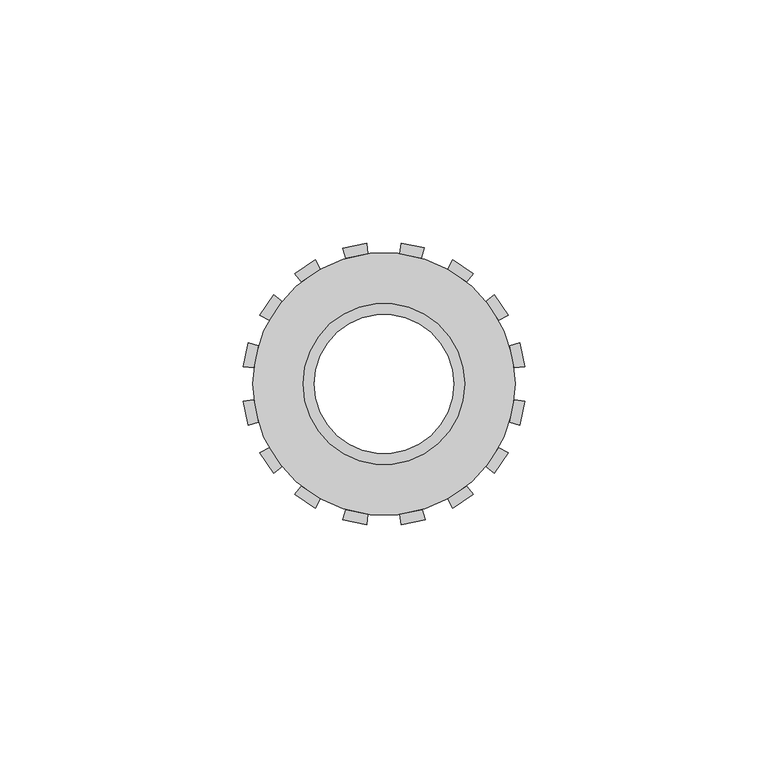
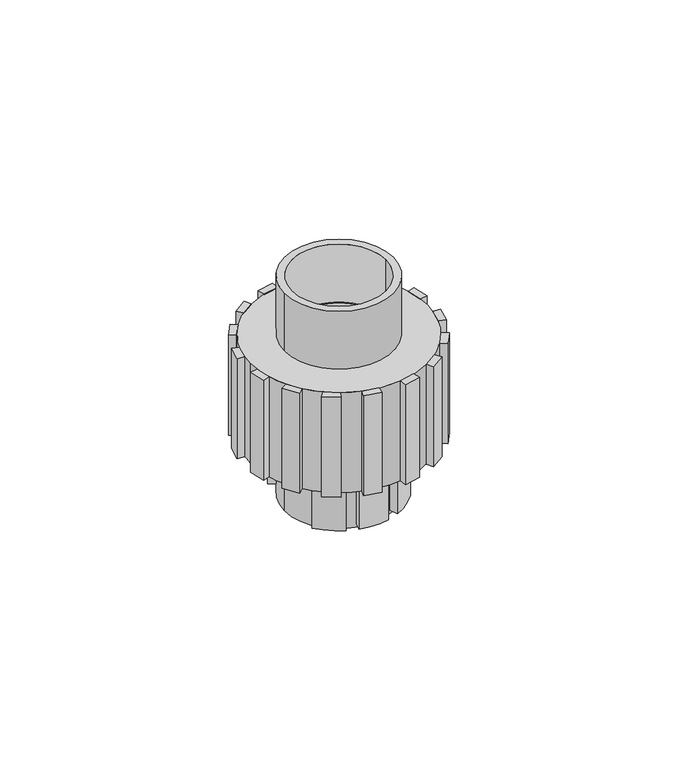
"""IFC4 building model written with IfcOpenShell, lengths in millimetres: valve geometry, Tuerca Union_Lubrizol_CPVC_FlowGuard_MX 25mm : Tuerca Union_Lubrizol_CPVC_FlowGuard_MX 25mm."""

import ifcopenshell
import ifcopenshell.guid

model = None  # the IFC model being written
_history = None  # IfcOwnerHistory: only IFC2X3 demands one
_inside = {}  # id of a spatial element -> (the spatial element, [elements in it])
_under = {}  # id of a project, library or spatial element -> (it, [spatial elements below it])
_declared = {}  # id of a project -> (the project, [libraries it declares])
_typed = {}  # id of a type object -> (the type object, [elements of that type])
_made_of = {}  # id of a material, layer set ... -> (it, [elements and type objects made of it])


def new_model(schema):
    """Start an empty IFC model of exactly this schema.

    Asked for "IFC4X3", IfcOpenShell would pick the latest addendum, in which some entities
    have other attributes; the version numbers below select the first issue.
    IFC2X3 requires an IfcOwnerHistory on every rooted entity: one is made here for all.
    """
    global model, _history
    if schema == "IFC4X3":
        model = ifcopenshell.file(schema_version=(4, 3, 0, 0))
    else:
        model = ifcopenshell.file(schema=schema)
    _inside.clear()
    _under.clear()
    _declared.clear()
    _typed.clear()
    _made_of.clear()
    _history = None
    if model.schema == "IFC2X3":
        org = make("IfcOrganization", Name="unknown")
        user = make(
            "IfcPersonAndOrganization",
            ThePerson=make("IfcPerson", FamilyName="unknown"),
            TheOrganization=org,
        )
        app = make(
            "IfcApplication",
            ApplicationDeveloper=org,
            Version="unknown",
            ApplicationFullName="unknown",
            ApplicationIdentifier="unknown",
        )
        _history = make(
            "IfcOwnerHistory",
            OwningUser=user,
            OwningApplication=app,
            ChangeAction="ADDED",
            CreationDate=0,
        )
    return model


def make(cls, **values):
    """One entity of the class cls with the attributes given. An attribute that is None is left unset."""
    return model.create_entity(
        cls, **{name: value for name, value in values.items() if value is not None}
    )


def rooted(cls, **values):
    """An entity with a GlobalId (a new one), such as an element, a storey or a relation."""
    return make(cls, GlobalId=ifcopenshell.guid.new(), OwnerHistory=_history, **values)


def si_unit(unit_type, name, prefix=None):
    """IfcSIUnit, for example si_unit("LENGTHUNIT", "METRE", prefix="MILLI")."""
    return make("IfcSIUnit", UnitType=unit_type, Prefix=prefix, Name=name)


def assignment(units):
    """IfcUnitAssignment: the units of a project."""
    return None if units is None else make("IfcUnitAssignment", Units=units)


def point(xyz):
    """IfcCartesianPoint."""
    return None if xyz is None else make("IfcCartesianPoint", Coordinates=xyz)


def direction(xyz):
    """IfcDirection."""
    return None if xyz is None else make("IfcDirection", DirectionRatios=xyz)


def frame(location, z_axis=None, x_axis=None):
    """IfcAxis2Placement3D, a coordinate frame: its origin and axes. An axis left out is left unset."""
    return make(
        "IfcAxis2Placement3D",
        Location=point(location),
        Axis=direction(z_axis),
        RefDirection=direction(x_axis),
    )


def frame_2d(location, x_axis=None):
    """IfcAxis2Placement2D, a coordinate frame in the plane: its origin and x axis."""
    return make(
        "IfcAxis2Placement2D", Location=point(location), RefDirection=direction(x_axis)
    )


def origin():
    """The frame at (0, 0, 0) with its axes left unset."""
    return frame((0.0, 0.0, 0.0))


def origin_with_axes():
    """The frame at (0, 0, 0) with the z axis (0, 0, 1) and the x axis (1, 0, 0) written out."""
    return frame((0.0, 0.0, 0.0), z_axis=(0.0, 0.0, 1.0), x_axis=(1.0, 0.0, 0.0))


def origin_2d():
    """The frame at (0, 0) in the plane with its x axis left unset."""
    return frame_2d((0.0, 0.0))


def place(relative_to, where):
    """IfcLocalPlacement: puts the frame where relative to a parent placement (None: the world)."""
    return make(
        "IfcLocalPlacement", PlacementRelTo=relative_to, RelativePlacement=where
    )


def context(
    kind, dimensions, precision=None, world=None, true_north=None, identifier=None
):
    """IfcGeometricRepresentationContext, for example the 3D "Model" context."""
    return make(
        "IfcGeometricRepresentationContext",
        ContextIdentifier=identifier,
        ContextType=kind,
        CoordinateSpaceDimension=dimensions,
        Precision=precision,
        WorldCoordinateSystem=world,
        TrueNorth=true_north,
    )


def project(units=None, contexts=None):
    """IfcProject with its units and contexts."""
    return rooted(
        "IfcProject",
        Name="project",
        RepresentationContexts=contexts,
        UnitsInContext=assignment(units),
    )


def spatial(cls, under=None, at=None, **own):
    """A site, building, storey or space (cls), placed at a placement, below another one or the project."""
    s = rooted(cls, ObjectPlacement=at, **own)
    if under is not None:
        _under.setdefault(under.id(), (under, []))[1].append(s)
    return s


def polyline(points):
    """IfcPolyline through the points."""
    return make("IfcPolyline", Points=[point(p) for p in points])


def circle_curve(where, radius):
    """IfcCircle in the frame where."""
    return make("IfcCircle", Position=where, Radius=radius)


def trimmed(basis, trim1, trim2, sense, master):
    """IfcTrimmedCurve: the piece of a basis curve between two trims."""
    return make(
        "IfcTrimmedCurve",
        BasisCurve=basis,
        Trim1=trim1,
        Trim2=trim2,
        SenseAgreement=sense,
        MasterRepresentation=master,
    )


def segment(curve, same_sense, transition):
    """IfcCompositeCurveSegment."""
    return make(
        "IfcCompositeCurveSegment",
        Transition=transition,
        SameSense=same_sense,
        ParentCurve=curve,
    )


def composite_curve(segments, self_intersect=None):
    """IfcCompositeCurve: segments joined end to end."""
    return make("IfcCompositeCurve", Segments=segments, SelfIntersect=self_intersect)


def outline(outer, holes=None, kind="AREA"):
    """IfcArbitraryClosedProfileDef: a profile drawn as a closed curve; with holes, ...WithVoids."""
    if holes is None:
        return make("IfcArbitraryClosedProfileDef", ProfileType=kind, OuterCurve=outer)
    return make(
        "IfcArbitraryProfileDefWithVoids",
        ProfileType=kind,
        OuterCurve=outer,
        InnerCurves=holes,
    )


def extrude(swept, where, along, depth):
    """IfcExtrudedAreaSolid: the profile swept, set in the frame where, extruded along a direction by depth."""
    return make(
        "IfcExtrudedAreaSolid",
        SweptArea=swept,
        Position=where,
        ExtrudedDirection=direction(along),
        Depth=depth,
    )


def shape(context_of_items, identifier, shape_type, items):
    """IfcShapeRepresentation: the items that make up one representation, for example the "Body"."""
    return make(
        "IfcShapeRepresentation",
        ContextOfItems=context_of_items,
        RepresentationIdentifier=identifier,
        RepresentationType=shape_type,
        Items=items,
    )


def source(mapping_origin, context_of_items, identifier, shape_type, items):
    """IfcRepresentationMap: a shape defined once, which mapped items show again and again."""
    return make(
        "IfcRepresentationMap",
        MappingOrigin=mapping_origin,
        MappedRepresentation=shape(context_of_items, identifier, shape_type, items),
    )


def transform(
    local_origin,
    x_axis=None,
    y_axis=None,
    z_axis=None,
    scale=None,
    scale2=None,
    scale3=None,
    uniform=True,
):
    """IfcCartesianTransformationOperator3D, or its non-uniform kind. x_axis, y_axis, z_axis: its Axis1, 2, 3."""
    if uniform:
        return make(
            "IfcCartesianTransformationOperator3D",
            Axis1=direction(x_axis),
            Axis2=direction(y_axis),
            LocalOrigin=point(local_origin),
            Scale=scale,
            Axis3=direction(z_axis),
        )
    return make(
        "IfcCartesianTransformationOperator3DnonUniform",
        Axis1=direction(x_axis),
        Axis2=direction(y_axis),
        LocalOrigin=point(local_origin),
        Scale=scale,
        Axis3=direction(z_axis),
        Scale2=scale2,
        Scale3=scale3,
    )


def mapped(mapping_source, mapping_target):
    """IfcMappedItem: shows the shape of a source again, moved by a transform."""
    return make(
        "IfcMappedItem", MappingSource=mapping_source, MappingTarget=mapping_target
    )


def made_of(thing, what):
    """Note that an element or type object is made of a material, layer set ...; save() writes the relation."""
    if what is not None:
        _made_of.setdefault(what.id(), (what, []))[1].append(thing)
    return thing


def element(
    cls,
    number,
    at=None,
    inside=None,
    cuts=None,
    type_object=None,
    material=None,
    context=None,
    identifier="Body",
    shape_type=None,
    held_by="IfcProductDefinitionShape",
    body=None,
    shapes=None,
    **own,
):
    """One element of the class cls, such as IfcWall. Its Tag is "e" and its number.

    at: its placement. inside: the storey or other place that contains it. cuts: it is an
    opening in that element (IfcRelVoidsElement). A single representation is given by context,
    identifier, shape_type and body (its items); several are given by shapes. held_by: the class
    of the entity that holds the representations. save() writes the other relations.
    """
    e = rooted(cls, Tag="e%d" % number, ObjectPlacement=at, **own)
    if body is not None:
        shapes = [shape(context, identifier, shape_type, body)]
    if shapes is not None:
        e.Representation = make(held_by, Representations=shapes)
    if inside is not None:
        _inside.setdefault(inside.id(), (inside, []))[1].append(e)
    if cuts is not None:
        rooted(
            "IfcRelVoidsElement", RelatingBuildingElement=cuts, RelatedOpeningElement=e
        )
    if type_object is not None:
        _typed.setdefault(type_object.id(), (type_object, []))[1].append(e)
    return made_of(e, material)


def aggregate(whole, parts):
    """IfcRelAggregates: a whole, such as a stair, and the parts it consists of."""
    return rooted("IfcRelAggregates", RelatingObject=whole, RelatedObjects=parts)


def save(model, path):
    """Write the relations noted so far, then the file.

    IfcRelAggregates (storeys below a building ...), IfcRelContainedInSpatialStructure (elements
    in a storey), IfcRelDefinesByType, IfcRelAssociatesMaterial and IfcRelDeclares: one each for
    every whole, place, type object, material and project.
    """
    for whole, parts in _under.values():
        aggregate(whole, parts)
    for where, things in _inside.values():
        rooted(
            "IfcRelContainedInSpatialStructure",
            RelatedElements=things,
            RelatingStructure=where,
        )
    for kind, things in _typed.values():
        rooted("IfcRelDefinesByType", RelatedObjects=things, RelatingType=kind)
    for what, things in _made_of.values():
        rooted("IfcRelAssociatesMaterial", RelatedObjects=things, RelatingMaterial=what)
    for by, libraries in _declared.values():
        rooted("IfcRelDeclares", RelatingContext=by, RelatedDefinitions=libraries)
    model.write(path)


def valve_40f08054(model_context):
    return source(origin(), model_context, "Body", "SweptSolid", [
        extrude(outline(composite_curve([segment(polyline([(-3.8478317, 16.0761694), (-4.5012184, 18.5146416)]), True, "CONTINUOUS"), segment(trimmed(circle_curve(origin_2d(), 19.0539477), [point((-4.5012184, 18.5146416))], [point((4.5012184, 18.5146416))], False, "CARTESIAN"), True, "CONTINUOUS"), segment(polyline([(4.5012184, 18.5146416), (3.8478317, 16.0761694)]), True, "CONTINUOUS"), segment(trimmed(circle_curve(origin_2d(), 16.530246), [point((3.8478317, 16.0761694))], [point((-3.8478317, 16.0761694))], True, "CARTESIAN"), True, "CONTINUOUS")], self_intersect=False)), frame((0.0, 0.0, 1.0184482), z_axis=(0.0, 0.0, 1.0), x_axis=(1.0, 0.0, 0.0)), (0.0, 0.0, 1.0), 17.9199917),
        extrude(outline(composite_curve([segment(trimmed(circle_curve(origin_2d(), 16.530246), [point((-6.8653454, 15.0371561))], [point((-12.9296109, 10.2992326))], True, "CARTESIAN"), True, "CONTINUOUS"), segment(polyline([(-12.9296109, 10.2992326), (-14.9457601, 11.81851)]), True, "CONTINUOUS"), segment(trimmed(circle_curve(origin_2d(), 19.0539477), [point((-14.9457601, 11.81851))], [point((-7.8517431, 17.3609634))], False, "CARTESIAN"), True, "CONTINUOUS"), segment(polyline([(-7.8517431, 17.3609634), (-6.8653454, 15.0371561)]), True, "CONTINUOUS")], self_intersect=False)), frame((0.0, 0.0, 1.0184482), z_axis=(0.0, 0.0, 1.0), x_axis=(1.0, 0.0, 0.0)), (0.0, 0.0, 1.0), 17.9199917),
        extrude(outline(composite_curve([segment(polyline([(6.8653454, 15.0371561), (7.8517431, 17.3609634)]), True, "CONTINUOUS"), segment(trimmed(circle_curve(origin_2d(), 19.0539477), [point((7.8517431, 17.3609634))], [point((14.9457601, 11.81851))], False, "CARTESIAN"), True, "CONTINUOUS"), segment(polyline([(14.9457601, 11.81851), (12.9296109, 10.2992326)]), True, "CONTINUOUS"), segment(trimmed(circle_curve(origin_2d(), 16.530246), [point((12.9296109, 10.2992326))], [point((6.8653454, 15.0371561))], True, "CARTESIAN"), True, "CONTINUOUS")], self_intersect=False)), frame((0.0, 0.0, 1.0184482), z_axis=(0.0, 0.0, 1.0), x_axis=(1.0, 0.0, 0.0)), (0.0, 0.0, 1.0), 17.9199917),
        extrude(outline(composite_curve([segment(trimmed(circle_curve(origin_2d(), 16.530246), [point((-3.8478317, -16.0761694))], [point((3.8478317, -16.0761694))], True, "CARTESIAN"), True, "CONTINUOUS"), segment(polyline([(3.8478317, -16.0761694), (4.5012184, -18.5146416)]), True, "CONTINUOUS"), segment(trimmed(circle_curve(origin_2d(), 19.0539477), [point((4.5012184, -18.5146416))], [point((-4.5012184, -18.5146416))], False, "CARTESIAN"), True, "CONTINUOUS"), segment(polyline([(-4.5012184, -18.5146416), (-3.8478317, -16.0761694)]), True, "CONTINUOUS")], self_intersect=False)), frame((0.0, 0.0, 1.0184482), z_axis=(0.0, 0.0, 1.0), x_axis=(1.0, 0.0, 0.0)), (0.0, 0.0, 1.0), 17.9199917),
        extrude(outline(composite_curve([segment(polyline([(-6.8653454, -15.0371561), (-7.8517431, -17.3609634)]), True, "CONTINUOUS"), segment(trimmed(circle_curve(origin_2d(), 19.0539477), [point((-7.8517431, -17.3609634))], [point((-14.9457601, -11.81851))], False, "CARTESIAN"), True, "CONTINUOUS"), segment(polyline([(-14.9457601, -11.81851), (-12.9296109, -10.2992326)]), True, "CONTINUOUS"), segment(trimmed(circle_curve(origin_2d(), 16.530246), [point((-12.9296109, -10.2992326))], [point((-6.8653454, -15.0371561))], True, "CARTESIAN"), True, "CONTINUOUS")], self_intersect=False)), frame((0.0, 0.0, 1.0184482), z_axis=(0.0, 0.0, 1.0), x_axis=(1.0, 0.0, 0.0)), (0.0, 0.0, 1.0), 17.9199917),
        extrude(outline(composite_curve([segment(trimmed(circle_curve(origin_2d(), 16.530246), [point((6.8653454, -15.0371561))], [point((12.9296109, -10.2992326))], True, "CARTESIAN"), True, "CONTINUOUS"), segment(polyline([(12.9296109, -10.2992326), (14.9457601, -11.81851)]), True, "CONTINUOUS"), segment(trimmed(circle_curve(origin_2d(), 19.0539477), [point((14.9457601, -11.81851))], [point((7.8517431, -17.3609634))], False, "CARTESIAN"), True, "CONTINUOUS"), segment(polyline([(7.8517431, -17.3609634), (6.8653454, -15.0371561)]), True, "CONTINUOUS")], self_intersect=False)), frame((0.0, 0.0, 1.0184482), z_axis=(0.0, 0.0, 1.0), x_axis=(1.0, 0.0, 0.0)), (0.0, 0.0, 1.0), 17.9199917),
        extrude(outline(composite_curve([segment(polyline([(-16.9916506, 20.982941), (-18.3509826, 22.6615762)]), True, "CONTINUOUS"), segment(trimmed(circle_curve(origin_2d(), 29.16), [point((-18.3509826, 22.6615762))], [point((-14.1370485, 25.5039107))], False, "CARTESIAN"), True, "CONTINUOUS"), segment(polyline([(-14.1370485, 25.5039107), (-13.0898597, 23.6147321)]), True, "CONTINUOUS"), segment(trimmed(circle_curve(origin_2d(), 27.0), [point((-13.0898597, 23.6147321))], [point((-16.9916506, 20.982941))], True, "CARTESIAN"), True, "CONTINUOUS")], self_intersect=False)), frame((0.0, 0.0, 18.9384399), z_axis=(0.0, 0.0, 1.0), x_axis=(1.0, 0.0, 0.0)), (0.0, 0.0, 1.0), 32.2353081),
        extrude(outline(composite_curve([segment(trimmed(circle_curve(origin_2d(), 27.0), [point((-3.2904723, 26.7987461))], [point((-7.894036, 25.8202284))], True, "CARTESIAN"), True, "CONTINUOUS"), segment(polyline([(-7.894036, 25.8202284), (-8.5255589, 27.8858467)]), True, "CONTINUOUS"), segment(trimmed(circle_curve(origin_2d(), 29.16), [point((-8.5255589, 27.8858467))], [point((-3.5537101, 28.9426458))], False, "CARTESIAN"), True, "CONTINUOUS"), segment(polyline([(-3.5537101, 28.9426458), (-3.2904723, 26.7987461)]), True, "CONTINUOUS")], self_intersect=False)), frame((0.0, 0.0, 18.9384399), z_axis=(0.0, 0.0, 1.0), x_axis=(1.0, 0.0, 0.0)), (0.0, 0.0, 1.0), 32.2353081),
        extrude(outline(composite_curve([segment(trimmed(circle_curve(origin_2d(), 27.0), [point((-20.982941, 16.9916506))], [point((-23.6147321, 13.0898597))], True, "CARTESIAN"), True, "CONTINUOUS"), segment(polyline([(-23.6147321, 13.0898597), (-25.5039107, 14.1370485)]), True, "CONTINUOUS"), segment(trimmed(circle_curve(origin_2d(), 29.16), [point((-25.5039107, 14.1370485))], [point((-22.6615762, 18.3509826))], False, "CARTESIAN"), True, "CONTINUOUS"), segment(polyline([(-22.6615762, 18.3509826), (-20.982941, 16.9916506)]), True, "CONTINUOUS")], self_intersect=False)), frame((0.0, 0.0, 18.9384399), z_axis=(0.0, 0.0, 1.0), x_axis=(1.0, 0.0, 0.0)), (0.0, 0.0, 1.0), 32.2353081),
        extrude(outline(composite_curve([segment(polyline([(-26.7987461, 3.2904723), (-28.9426458, 3.5537101)]), True, "CONTINUOUS"), segment(trimmed(circle_curve(origin_2d(), 29.16), [point((-28.9426458, 3.5537101))], [point((-27.8858467, 8.5255589))], False, "CARTESIAN"), True, "CONTINUOUS"), segment(polyline([(-27.8858467, 8.5255589), (-25.8202284, 7.894036)]), True, "CONTINUOUS"), segment(trimmed(circle_curve(origin_2d(), 27.0), [point((-25.8202284, 7.894036))], [point((-26.7987461, 3.2904723))], True, "CARTESIAN"), True, "CONTINUOUS")], self_intersect=False)), frame((0.0, 0.0, 18.9384399), z_axis=(0.0, 0.0, 1.0), x_axis=(1.0, 0.0, 0.0)), (0.0, 0.0, 1.0), 32.2353081),
        extrude(outline(composite_curve([segment(trimmed(circle_curve(origin_2d(), 27.0), [point((16.9916506, 20.982941))], [point((13.0898597, 23.6147321))], True, "CARTESIAN"), True, "CONTINUOUS"), segment(polyline([(13.0898597, 23.6147321), (14.1370485, 25.5039107)]), True, "CONTINUOUS"), segment(trimmed(circle_curve(origin_2d(), 29.16), [point((14.1370485, 25.5039107))], [point((18.3509826, 22.6615762))], False, "CARTESIAN"), True, "CONTINUOUS"), segment(polyline([(18.3509826, 22.6615762), (16.9916506, 20.982941)]), True, "CONTINUOUS")], self_intersect=False)), frame((0.0, 0.0, 18.9384399), z_axis=(0.0, 0.0, 1.0), x_axis=(1.0, 0.0, 0.0)), (0.0, 0.0, 1.0), 32.2353081),
        extrude(outline(composite_curve([segment(polyline([(3.2904723, 26.7987461), (3.5537101, 28.9426458)]), True, "CONTINUOUS"), segment(trimmed(circle_curve(origin_2d(), 29.16), [point((3.5537101, 28.9426458))], [point((8.2585786, 27.9660773))], False, "CARTESIAN"), True, "CONTINUOUS"), segment(polyline([(8.2585786, 27.9660773), (7.6270245, 25.9003571)]), True, "CONTINUOUS"), segment(trimmed(circle_curve(origin_2d(), 27.0), [point((7.6270245, 25.9003571))], [point((3.2904723, 26.7987461))], True, "CARTESIAN"), True, "CONTINUOUS")], self_intersect=False)), frame((0.0, 0.0, 18.9384399), z_axis=(0.0, 0.0, 1.0), x_axis=(1.0, 0.0, 0.0)), (0.0, 0.0, 1.0), 32.2353081),
        extrude(outline(composite_curve([segment(polyline([(20.982941, 16.9916506), (22.6615762, 18.3509826)]), True, "CONTINUOUS"), segment(trimmed(circle_curve(origin_2d(), 29.16), [point((22.6615762, 18.3509826))], [point((25.5039107, 14.1370485))], False, "CARTESIAN"), True, "CONTINUOUS"), segment(polyline([(25.5039107, 14.1370485), (23.6147321, 13.0898597)]), True, "CONTINUOUS"), segment(trimmed(circle_curve(origin_2d(), 27.0), [point((23.6147321, 13.0898597))], [point((20.982941, 16.9916506))], True, "CARTESIAN"), True, "CONTINUOUS")], self_intersect=False)), frame((0.0, 0.0, 18.9384399), z_axis=(0.0, 0.0, 1.0), x_axis=(1.0, 0.0, 0.0)), (0.0, 0.0, 1.0), 32.2353081),
        extrude(outline(composite_curve([segment(trimmed(circle_curve(origin_2d(), 27.0), [point((26.7987461, 3.2904723))], [point((25.8202284, 7.894036))], True, "CARTESIAN"), True, "CONTINUOUS"), segment(polyline([(25.8202284, 7.894036), (27.8858467, 8.5255589)]), True, "CONTINUOUS"), segment(trimmed(circle_curve(origin_2d(), 29.16), [point((27.8858467, 8.5255589))], [point((28.9426458, 3.5537101))], False, "CARTESIAN"), True, "CONTINUOUS"), segment(polyline([(28.9426458, 3.5537101), (26.7987461, 3.2904723)]), True, "CONTINUOUS")], self_intersect=False)), frame((0.0, 0.0, 18.9384399), z_axis=(0.0, 0.0, 1.0), x_axis=(1.0, 0.0, 0.0)), (0.0, 0.0, 1.0), 32.2353081),
        extrude(outline(composite_curve([segment(trimmed(circle_curve(origin_2d(), 27.0), [point((-16.9916506, -20.982941))], [point((-13.0898597, -23.6147321))], True, "CARTESIAN"), True, "CONTINUOUS"), segment(polyline([(-13.0898597, -23.6147321), (-14.1370485, -25.5039107)]), True, "CONTINUOUS"), segment(trimmed(circle_curve(origin_2d(), 29.16), [point((-14.1370485, -25.5039107))], [point((-18.3509826, -22.6615762))], False, "CARTESIAN"), True, "CONTINUOUS"), segment(polyline([(-18.3509826, -22.6615762), (-16.9916506, -20.982941)]), True, "CONTINUOUS")], self_intersect=False)), frame((0.0, 0.0, 18.9384399), z_axis=(0.0, 0.0, 1.0), x_axis=(1.0, 0.0, 0.0)), (0.0, 0.0, 1.0), 32.2353081),
        extrude(outline(composite_curve([segment(polyline([(-3.2904723, -26.7987461), (-3.5537101, -28.9426458)]), True, "CONTINUOUS"), segment(trimmed(circle_curve(origin_2d(), 29.16), [point((-3.5537101, -28.9426458))], [point((-8.5255589, -27.8858467))], False, "CARTESIAN"), True, "CONTINUOUS"), segment(polyline([(-8.5255589, -27.8858467), (-7.894036, -25.8202284)]), True, "CONTINUOUS"), segment(trimmed(circle_curve(origin_2d(), 27.0), [point((-7.894036, -25.8202284))], [point((-3.2904723, -26.7987461))], True, "CARTESIAN"), True, "CONTINUOUS")], self_intersect=False)), frame((0.0, 0.0, 18.9384399), z_axis=(0.0, 0.0, 1.0), x_axis=(1.0, 0.0, 0.0)), (0.0, 0.0, 1.0), 32.2353081),
        extrude(outline(composite_curve([segment(polyline([(-20.982941, -16.9916506), (-22.6615762, -18.3509826)]), True, "CONTINUOUS"), segment(trimmed(circle_curve(origin_2d(), 29.16), [point((-22.6615762, -18.3509826))], [point((-25.5039107, -14.1370485))], False, "CARTESIAN"), True, "CONTINUOUS"), segment(polyline([(-25.5039107, -14.1370485), (-23.6147321, -13.0898597)]), True, "CONTINUOUS"), segment(trimmed(circle_curve(origin_2d(), 27.0), [point((-23.6147321, -13.0898597))], [point((-20.982941, -16.9916506))], True, "CARTESIAN"), True, "CONTINUOUS")], self_intersect=False)), frame((0.0, 0.0, 18.9384399), z_axis=(0.0, 0.0, 1.0), x_axis=(1.0, 0.0, 0.0)), (0.0, 0.0, 1.0), 32.2353081),
        extrude(outline(composite_curve([segment(trimmed(circle_curve(origin_2d(), 27.0), [point((-26.7987461, -3.2904723))], [point((-25.8202284, -7.894036))], True, "CARTESIAN"), True, "CONTINUOUS"), segment(polyline([(-25.8202284, -7.894036), (-27.8858467, -8.5255589)]), True, "CONTINUOUS"), segment(trimmed(circle_curve(origin_2d(), 29.16), [point((-27.8858467, -8.5255589))], [point((-28.9426458, -3.5537101))], False, "CARTESIAN"), True, "CONTINUOUS"), segment(polyline([(-28.9426458, -3.5537101), (-26.7987461, -3.2904723)]), True, "CONTINUOUS")], self_intersect=False)), frame((0.0, 0.0, 18.9384399), z_axis=(0.0, 0.0, 1.0), x_axis=(1.0, 0.0, 0.0)), (0.0, 0.0, 1.0), 32.2353081),
        extrude(outline(composite_curve([segment(polyline([(16.9916506, -20.982941), (18.3509826, -22.6615762)]), True, "CONTINUOUS"), segment(trimmed(circle_curve(origin_2d(), 29.16), [point((18.3509826, -22.6615762))], [point((14.1370485, -25.5039107))], False, "CARTESIAN"), True, "CONTINUOUS"), segment(polyline([(14.1370485, -25.5039107), (13.0898597, -23.6147321)]), True, "CONTINUOUS"), segment(trimmed(circle_curve(origin_2d(), 27.0), [point((13.0898597, -23.6147321))], [point((16.9916506, -20.982941))], True, "CARTESIAN"), True, "CONTINUOUS")], self_intersect=False)), frame((0.0, 0.0, 18.9384399), z_axis=(0.0, 0.0, 1.0), x_axis=(1.0, 0.0, 0.0)), (0.0, 0.0, 1.0), 32.2353081),
        extrude(outline(composite_curve([segment(trimmed(circle_curve(origin_2d(), 27.0), [point((3.2904723, -26.7987461))], [point((7.894036, -25.8202284))], True, "CARTESIAN"), True, "CONTINUOUS"), segment(polyline([(7.894036, -25.8202284), (8.5255589, -27.8858467)]), True, "CONTINUOUS"), segment(trimmed(circle_curve(origin_2d(), 29.16), [point((8.5255589, -27.8858467))], [point((3.5537101, -28.9426458))], False, "CARTESIAN"), True, "CONTINUOUS"), segment(polyline([(3.5537101, -28.9426458), (3.2904723, -26.7987461)]), True, "CONTINUOUS")], self_intersect=False)), frame((0.0, 0.0, 18.9384399), z_axis=(0.0, 0.0, 1.0), x_axis=(1.0, 0.0, 0.0)), (0.0, 0.0, 1.0), 32.2353081),
        extrude(outline(composite_curve([segment(trimmed(circle_curve(origin_2d(), 27.0), [point((20.982941, -16.9916506))], [point((23.6147321, -13.0898597))], True, "CARTESIAN"), True, "CONTINUOUS"), segment(polyline([(23.6147321, -13.0898597), (25.5039107, -14.1370485)]), True, "CONTINUOUS"), segment(trimmed(circle_curve(origin_2d(), 29.16), [point((25.5039107, -14.1370485))], [point((22.6615762, -18.3509826))], False, "CARTESIAN"), True, "CONTINUOUS"), segment(polyline([(22.6615762, -18.3509826), (20.982941, -16.9916506)]), True, "CONTINUOUS")], self_intersect=False)), frame((0.0, 0.0, 18.9384399), z_axis=(0.0, 0.0, 1.0), x_axis=(1.0, 0.0, 0.0)), (0.0, 0.0, 1.0), 32.2353081),
        extrude(outline(composite_curve([segment(polyline([(26.7987461, -3.2904723), (28.9426458, -3.5537101)]), True, "CONTINUOUS"), segment(trimmed(circle_curve(origin_2d(), 29.16), [point((28.9426458, -3.5537101))], [point((27.8858467, -8.5255589))], False, "CARTESIAN"), True, "CONTINUOUS"), segment(polyline([(27.8858467, -8.5255589), (25.8202284, -7.894036)]), True, "CONTINUOUS"), segment(trimmed(circle_curve(origin_2d(), 27.0), [point((25.8202284, -7.894036))], [point((26.7987461, -3.2904723))], True, "CARTESIAN"), True, "CONTINUOUS")], self_intersect=False)), frame((0.0, 0.0, 18.9384399), z_axis=(0.0, 0.0, 1.0), x_axis=(1.0, 0.0, 0.0)), (0.0, 0.0, 1.0), 32.2353081),
        extrude(outline(composite_curve([segment(trimmed(circle_curve(origin_2d(), 16.6), [point((-16.6, 0.0))], [point((16.6, 0.0))], False, "CARTESIAN"), True, "CONTINUOUS"), segment(trimmed(circle_curve(origin_2d(), 16.6), [point((16.6, 0.0))], [point((-16.6, 0.0))], False, "CARTESIAN"), True, "CONTINUOUS")], self_intersect=False), holes=[composite_curve([segment(trimmed(circle_curve(origin_2d(), 14.3), [point((-14.3, 0.0))], [point((14.3, 0.0))], True, "CARTESIAN"), True, "CONTINUOUS"), segment(trimmed(circle_curve(origin_2d(), 14.3), [point((14.3, 0.0))], [point((-14.3, 0.0))], True, "CARTESIAN"), True, "CONTINUOUS")], self_intersect=False)]), origin_with_axes(), (0.0, 0.0, 1.0), 18.9384399),
        extrude(outline(composite_curve([segment(trimmed(circle_curve(origin_2d(), 27.0), [point((-27.0, 0.0))], [point((27.0, 0.0))], False, "CARTESIAN"), True, "CONTINUOUS"), segment(trimmed(circle_curve(origin_2d(), 27.0), [point((27.0, 0.0))], [point((-27.0, 0.0))], False, "CARTESIAN"), True, "CONTINUOUS")], self_intersect=False), holes=[composite_curve([segment(trimmed(circle_curve(origin_2d(), 14.3), [point((-14.3, 0.0))], [point((14.3, 0.0))], True, "CARTESIAN"), True, "CONTINUOUS"), segment(trimmed(circle_curve(origin_2d(), 14.3), [point((14.3, 0.0))], [point((-14.3, 0.0))], True, "CARTESIAN"), True, "CONTINUOUS")], self_intersect=False)]), frame((0.0, 0.0, 18.9384399), z_axis=(0.0, 0.0, 1.0), x_axis=(1.0, 0.0, 0.0)), (0.0, 0.0, 1.0), 32.2353081),
        extrude(outline(composite_curve([segment(trimmed(circle_curve(origin_2d(), 16.6), [point((-16.6, 0.0))], [point((16.6, 0.0))], False, "CARTESIAN"), True, "CONTINUOUS"), segment(trimmed(circle_curve(origin_2d(), 16.6), [point((16.6, 0.0))], [point((-16.6, 0.0))], False, "CARTESIAN"), True, "CONTINUOUS")], self_intersect=False), holes=[composite_curve([segment(trimmed(circle_curve(origin_2d(), 14.3), [point((-14.3, 0.0))], [point((14.3, 0.0))], True, "CARTESIAN"), True, "CONTINUOUS"), segment(trimmed(circle_curve(origin_2d(), 14.3), [point((14.3, 0.0))], [point((-14.3, 0.0))], True, "CARTESIAN"), True, "CONTINUOUS")], self_intersect=False)]), frame((0.0, 0.0, 43.0605328), z_axis=(0.0, 0.0, 1.0), x_axis=(1.0, 0.0, 0.0)), (0.0, 0.0, 1.0), 27.0384606),
    ])


if __name__ == "__main__":
    model = new_model("IFC4")
    model_context = context("Model", 3, world=origin())
    ifc_project = project(units=[si_unit("LENGTHUNIT", "METRE", prefix="MILLI")], contexts=[model_context])
    site = spatial("IfcSite", under=ifc_project)
    building = spatial("IfcBuilding", under=site)
    placement = place(None, origin())
    valve_shape = valve_40f08054(model_context)
    element("IfcValve", 1, ObjectType="Tuerca Union_Lubrizol_CPVC_FlowGuard_MX 25mm : Tuerca Union_Lubrizol_CPVC_FlowGuard_MX 25mm", at=placement, inside=building, context=model_context, shape_type="MappedRepresentation", body=[
        mapped(valve_shape, transform((0.0, 0.0, 0.0), x_axis=(1.0, 0.0, 0.0), y_axis=(0.0, 1.0, 0.0), z_axis=(0.0, 0.0, 1.0))),
    ])
    save(model, "model.ifc")
